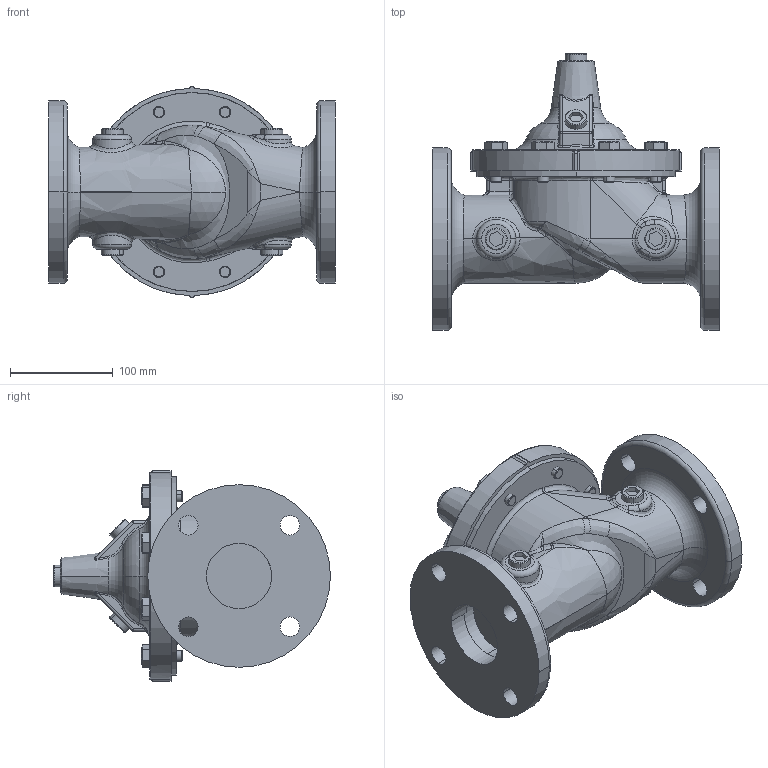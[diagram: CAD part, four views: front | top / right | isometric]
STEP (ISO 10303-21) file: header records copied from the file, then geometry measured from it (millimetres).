
FILE_DESCRIPTION (( 'STEP AP203' ), '1' );
FILE_NAME ('2.5in Hytrol 150AG.STEP', '2017-02-14T17:00:16', ( '' ), ( '' ), 'SwSTEP 2.0', 'SolidWorks 2017', '' );
FILE_SCHEMA (( 'CONFIG_CONTROL_DESIGN' ));
Length unit declared in the file: inch
Products named in the file (6): .500 NPT PIPE PLUG (67847)_SOC HD .50-14 NPT SST; .500 NPT PIPE PLUG (67847)_SCO HD .50-14 NPT; 2.5in Hytrol 150AG; 2.5in Body HyGl150A STD_Default 150 FLAT FACE; 2.5in Cover (no core)_Default (NO-CORE); Bolt .438-14 UNC  (67606)_1.25 67606-67D
Assembly tree (17 placements, depth 2):
  2.5in Hytrol 150AG
    2.5in Body HyGl150A STD_Default 150 FLAT FACE
    2.5in Cover (no core)_Default (NO-CORE)
    Bolt .438-14 UNC  (67606)_1.25 67606-67D  x8
    .500 NPT PIPE PLUG (67847)_SOC HD .50-14 NPT SST  x6
    .500 NPT PIPE PLUG (67847)_SCO HD .50-14 NPT
Bounding box: 279.4 x 269.49 x 204.7 mm (x, y, z)
Volume: 3815742.5 mm3; surface area: 388918 mm2
Topology: 17 solids, 17 shells, 599 faces, 1424 edges, 856 vertices
Faces by surface type: plane 181, cylinder 162, bspline 142, cone 65, torus 39, sphere 10
Entity records: 22209 total; most frequent: CARTESIAN_POINT 12155, ORIENTED_EDGE 2046, DIRECTION 1732, EDGE_CURVE 1023, AXIS2_PLACEMENT_3D 740, VERTEX_POINT 612, EDGE_LOOP 491, CIRCLE 433
